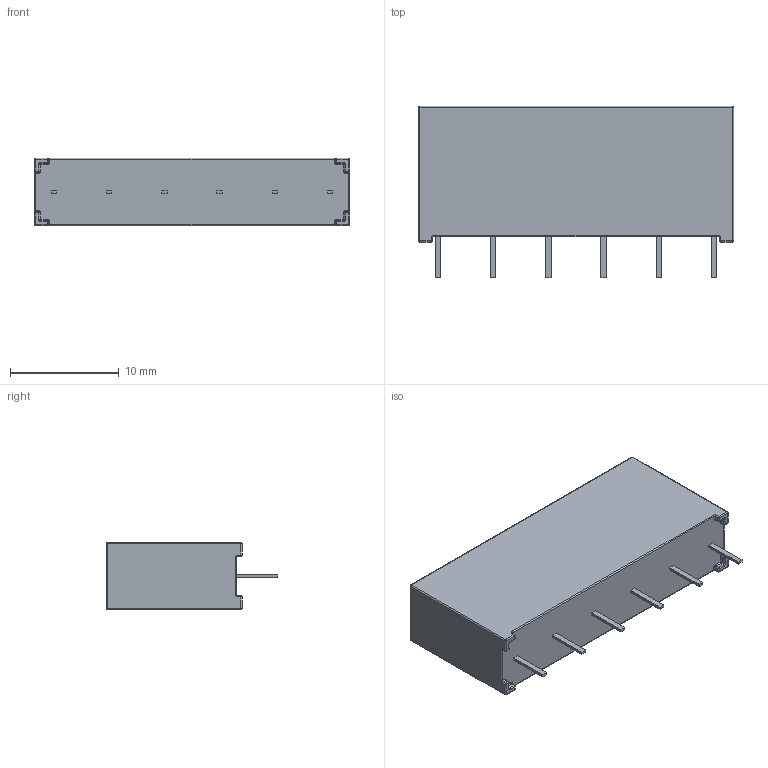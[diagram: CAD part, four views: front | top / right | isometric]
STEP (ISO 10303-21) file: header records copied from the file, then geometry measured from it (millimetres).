
FILE_DESCRIPTION (( 'STEP AP203' ), '1' );
FILE_NAME ('104-2-A.STEP', '2010-06-29T13:25:33', ( ' ' ), ( '' ), 'SwSTEP 2.0', 'SolidWorks 2009', '' );
FILE_SCHEMA (( 'CONFIG_CONTROL_DESIGN' ));
Products named in the file (1): 104-2-A
Bounding box: 29 x 15.8 x 6.22 mm (x, y, z)
Volume: 2167.8 mm3; surface area: 1241.4 mm2
Topology: 1 solids, 1 shells, 805 faces, 2085 edges, 1330 vertices
Faces by surface type: plane 463, bspline 222, cylinder 72, sphere 28, torus 20
Entity records: 36088 total; most frequent: CARTESIAN_POINT 17935, ORIENTED_EDGE 4114, DIRECTION 2945, EDGE_CURVE 2057, LINE 1449, VECTOR 1449, VERTEX_POINT 1330, EDGE_LOOP 881
